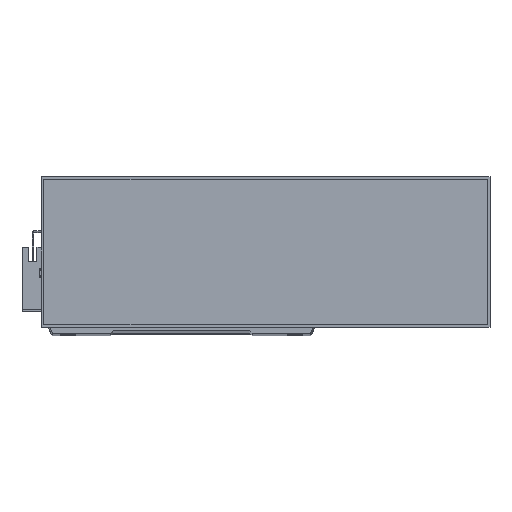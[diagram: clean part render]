
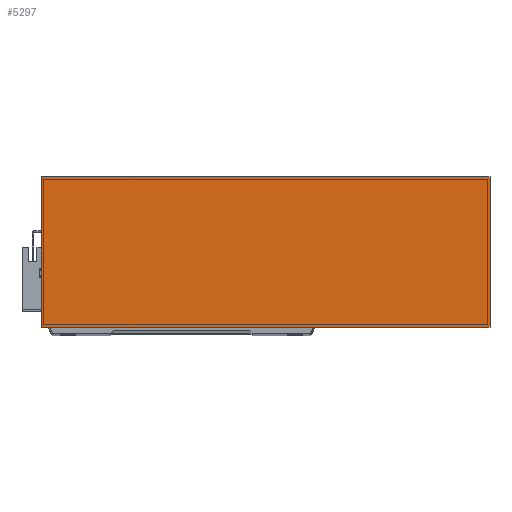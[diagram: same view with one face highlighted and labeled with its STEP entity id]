
A CAD part, top view. The second image highlights one B-rep face of the part: STEP entity #5297.
In plain terms, the highlighted planar face has unit normal (0, 0, 1).
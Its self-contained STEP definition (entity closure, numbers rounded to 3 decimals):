
#1477 = CARTESIAN_POINT ( 'NONE',  ( 0., 0., 50. ) ) ;
#2089 = EDGE_CURVE ( 'NONE', #22506, #13957, #26587, .T. ) ;
#3620 = CARTESIAN_POINT ( 'NONE',  ( 0., 93., 50. ) ) ;
#3755 = CARTESIAN_POINT ( 'NONE',  ( 277., 93., 50. ) ) ;
#3941 = EDGE_CURVE ( 'NONE', #13957, #24934, #20903, .T. ) ;
#5297 = ADVANCED_FACE ( 'NONE', ( #22920 ), #23607, .F. ) ;
#5702 = DIRECTION ( 'NONE',  ( 0., 1., 0. ) ) ;
#6841 = LINE ( 'NONE', #29099, #23265 ) ;
#7247 = DIRECTION ( 'NONE',  ( 0., -1., 0. ) ) ;
#7571 = CARTESIAN_POINT ( 'NONE',  ( 0., 93., 50. ) ) ;
#7634 = DIRECTION ( 'NONE',  ( -1., 0., 0. ) ) ;
#8751 = CARTESIAN_POINT ( 'NONE',  ( 277., 0., 50. ) ) ;
#8752 = VECTOR ( 'NONE', #5702, 1000. ) ;
#9275 = ORIENTED_EDGE ( 'NONE', *, *, #15171, .T. ) ;
#11081 = ORIENTED_EDGE ( 'NONE', *, *, #2089, .T. ) ;
#12113 = ORIENTED_EDGE ( 'NONE', *, *, #17949, .T. ) ;
#13957 = VERTEX_POINT ( 'NONE', #3755 ) ;
#15171 = EDGE_CURVE ( 'NONE', #24934, #20231, #27601, .T. ) ;
#17913 = DIRECTION ( 'NONE',  ( 1., 0., 0. ) ) ;
#17949 = EDGE_CURVE ( 'NONE', #20231, #22506, #6841, .T. ) ;
#20231 = VERTEX_POINT ( 'NONE', #1477 ) ;
#20903 = LINE ( 'NONE', #7571, #26157 ) ;
#22506 = VERTEX_POINT ( 'NONE', #26084 ) ;
#22836 = DIRECTION ( 'NONE',  ( -1., 0., 0. ) ) ;
#22857 = CARTESIAN_POINT ( 'NONE',  ( 0., 0., 50. ) ) ;
#22864 = DIRECTION ( 'NONE',  ( 0., 0., -1. ) ) ;
#22908 = CARTESIAN_POINT ( 'NONE',  ( 0., 0., 50. ) ) ;
#22920 = FACE_OUTER_BOUND ( 'NONE', #22983, .T. ) ;
#22983 = EDGE_LOOP ( 'NONE', ( #9275, #12113, #11081, #27203 ) ) ;
#23265 = VECTOR ( 'NONE', #17913, 1000. ) ;
#23607 = PLANE ( 'NONE',  #26046 ) ;
#24934 = VERTEX_POINT ( 'NONE', #3620 ) ;
#26046 = AXIS2_PLACEMENT_3D ( 'NONE', #22908, #22864, #22836 ) ;
#26084 = CARTESIAN_POINT ( 'NONE',  ( 277., 0., 50. ) ) ;
#26157 = VECTOR ( 'NONE', #7634, 1000. ) ;
#26587 = LINE ( 'NONE', #8751, #8752 ) ;
#27203 = ORIENTED_EDGE ( 'NONE', *, *, #3941, .T. ) ;
#27601 = LINE ( 'NONE', #22857, #28307 ) ;
#28307 = VECTOR ( 'NONE', #7247, 1000. ) ;
#29099 = CARTESIAN_POINT ( 'NONE',  ( 0., 0., 50. ) ) ;
